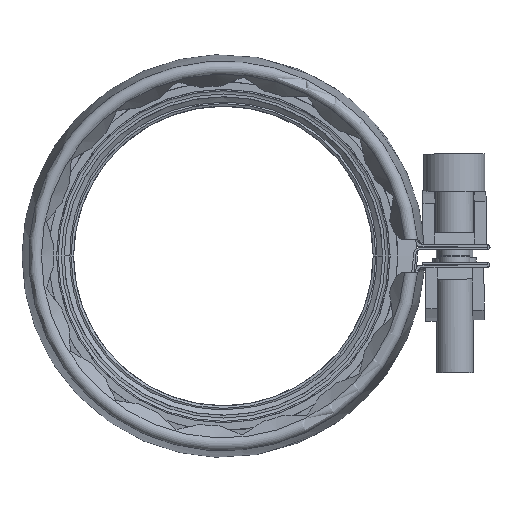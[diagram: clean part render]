
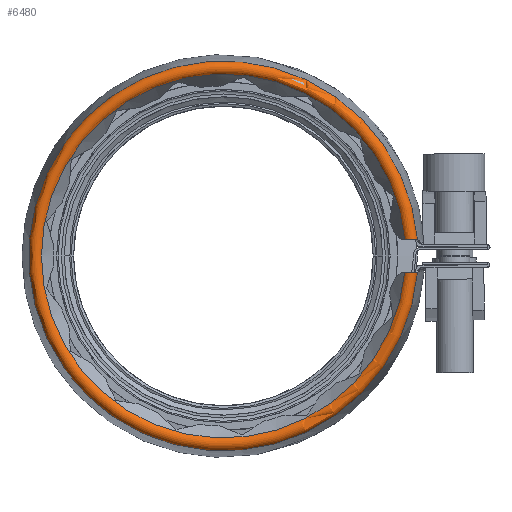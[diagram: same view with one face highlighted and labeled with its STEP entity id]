
A CAD part, left-side view. The second image highlights one B-rep face of the part: STEP entity #6480.
In plain terms, the highlighted toroidal (fillet/blend) face has major radius 40.15 mm and minor radius 1.5 mm.
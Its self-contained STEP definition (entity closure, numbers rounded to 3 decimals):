
#180=TOROIDAL_SURFACE('',#6950,40.15,1.5);
#255=B_SPLINE_CURVE_WITH_KNOTS('',3,(#10119,#10120,#10121,#10122,#10123,
#10124,#10125,#10126,#10127,#10128,#10129,#10130,#10131,#10132,#10133,#10134),
 .UNSPECIFIED.,.F.,.F.,(4,2,2,2,2,2,2,4),(-0.866,-0.835,
-0.779,-0.723,-0.668,-0.612,
-0.556,-0.528),.UNSPECIFIED.);
#256=B_SPLINE_CURVE_WITH_KNOTS('',3,(#10139,#10140,#10141,#10142,#10143,
#10144,#10145,#10146,#10147,#10148,#10149,#10150,#10151,#10152,#10153,#10154),
 .UNSPECIFIED.,.F.,.F.,(4,2,2,2,2,2,2,4),(-0.866,-0.835,
-0.779,-0.723,-0.668,-0.612,
-0.556,-0.528),.UNSPECIFIED.);
#367=CIRCLE('',#6915,41.628);
#377=CIRCLE('',#6951,38.902);
#378=CIRCLE('',#6952,38.902);
#806=FACE_OUTER_BOUND('',#1177,.T.);
#1177=EDGE_LOOP('',(#4325,#4326,#4327,#4328,#4329));
#2485=VERTEX_POINT('',#9856);
#2486=VERTEX_POINT('',#9861);
#2506=VERTEX_POINT('',#10118);
#2507=VERTEX_POINT('',#10135);
#2508=VERTEX_POINT('',#10137);
#3160=EDGE_CURVE('',#2486,#2485,#367,.T.);
#3209=EDGE_CURVE('',#2485,#2506,#255,.T.);
#3210=EDGE_CURVE('',#2507,#2506,#377,.T.);
#3211=EDGE_CURVE('',#2508,#2507,#378,.T.);
#3212=EDGE_CURVE('',#2486,#2508,#256,.T.);
#4325=ORIENTED_EDGE('',*,*,#3160,.T.);
#4326=ORIENTED_EDGE('',*,*,#3209,.T.);
#4327=ORIENTED_EDGE('',*,*,#3210,.F.);
#4328=ORIENTED_EDGE('',*,*,#3211,.F.);
#4329=ORIENTED_EDGE('',*,*,#3212,.F.);
#6480=ADVANCED_FACE('',(#806),#180,.T.);
#6915=AXIS2_PLACEMENT_3D('',#9862,#7749,#7750);
#6950=AXIS2_PLACEMENT_3D('',#10117,#7839,#7840);
#6951=AXIS2_PLACEMENT_3D('',#10136,#7841,#7842);
#6952=AXIS2_PLACEMENT_3D('',#10138,#7843,#7844);
#7749=DIRECTION('center_axis',(-1.,0.,0.));
#7750=DIRECTION('ref_axis',(0.,-0.997,0.083));
#7839=DIRECTION('center_axis',(-1.,0.,0.));
#7840=DIRECTION('ref_axis',(0.,1.,0.));
#7841=DIRECTION('center_axis',(-1.,0.,0.));
#7842=DIRECTION('ref_axis',(0.,1.,0.));
#7843=DIRECTION('center_axis',(-1.,0.,0.));
#7844=DIRECTION('ref_axis',(0.,-0.996,0.089));
#9856=CARTESIAN_POINT('',(-24.753,158.703,-132.887));
#9861=CARTESIAN_POINT('',(-24.753,158.703,-125.986));
#9862=CARTESIAN_POINT('Origin',(-24.753,200.188,-129.437));
#10117=CARTESIAN_POINT('Origin',(-24.5,200.188,-129.437));
#10118=CARTESIAN_POINT('',(-25.331,161.44,-132.887));
#10119=CARTESIAN_POINT('Ctrl Pts',(-24.753,158.703,-132.887));
#10120=CARTESIAN_POINT('Ctrl Pts',(-24.866,158.723,-132.887));
#10121=CARTESIAN_POINT('Ctrl Pts',(-24.977,158.756,-132.887));
#10122=CARTESIAN_POINT('Ctrl Pts',(-25.244,158.867,-132.887));
#10123=CARTESIAN_POINT('Ctrl Pts',(-25.429,158.991,-132.887));
#10124=CARTESIAN_POINT('Ctrl Pts',(-25.691,159.253,-132.887));
#10125=CARTESIAN_POINT('Ctrl Pts',(-25.815,159.439,-132.887));
#10126=CARTESIAN_POINT('Ctrl Pts',(-25.957,159.782,-132.887));
#10127=CARTESIAN_POINT('Ctrl Pts',(-26.,160.001,-132.887));
#10128=CARTESIAN_POINT('Ctrl Pts',(-26.,160.373,-132.887));
#10129=CARTESIAN_POINT('Ctrl Pts',(-25.957,160.592,-132.887));
#10130=CARTESIAN_POINT('Ctrl Pts',(-25.815,160.936,-132.887));
#10131=CARTESIAN_POINT('Ctrl Pts',(-25.691,161.121,-132.887));
#10132=CARTESIAN_POINT('Ctrl Pts',(-25.494,161.318,-132.887));
#10133=CARTESIAN_POINT('Ctrl Pts',(-25.416,161.384,-132.887));
#10134=CARTESIAN_POINT('Ctrl Pts',(-25.331,161.44,-132.887));
#10135=CARTESIAN_POINT('',(-25.331,239.09,-129.437));
#10136=CARTESIAN_POINT('Origin',(-25.331,200.188,-129.437));
#10137=CARTESIAN_POINT('',(-25.331,161.44,-125.986));
#10138=CARTESIAN_POINT('Origin',(-25.331,200.188,-129.437));
#10139=CARTESIAN_POINT('Ctrl Pts',(-24.753,158.703,-125.986));
#10140=CARTESIAN_POINT('Ctrl Pts',(-24.866,158.723,-125.986));
#10141=CARTESIAN_POINT('Ctrl Pts',(-24.977,158.756,-125.986));
#10142=CARTESIAN_POINT('Ctrl Pts',(-25.244,158.867,-125.986));
#10143=CARTESIAN_POINT('Ctrl Pts',(-25.429,158.991,-125.986));
#10144=CARTESIAN_POINT('Ctrl Pts',(-25.691,159.253,-125.986));
#10145=CARTESIAN_POINT('Ctrl Pts',(-25.815,159.439,-125.986));
#10146=CARTESIAN_POINT('Ctrl Pts',(-25.957,159.782,-125.986));
#10147=CARTESIAN_POINT('Ctrl Pts',(-26.,160.001,-125.986));
#10148=CARTESIAN_POINT('Ctrl Pts',(-26.,160.373,-125.986));
#10149=CARTESIAN_POINT('Ctrl Pts',(-25.957,160.592,-125.986));
#10150=CARTESIAN_POINT('Ctrl Pts',(-25.815,160.936,-125.986));
#10151=CARTESIAN_POINT('Ctrl Pts',(-25.691,161.121,-125.986));
#10152=CARTESIAN_POINT('Ctrl Pts',(-25.494,161.318,-125.986));
#10153=CARTESIAN_POINT('Ctrl Pts',(-25.416,161.384,-125.986));
#10154=CARTESIAN_POINT('Ctrl Pts',(-25.331,161.44,-125.986));
